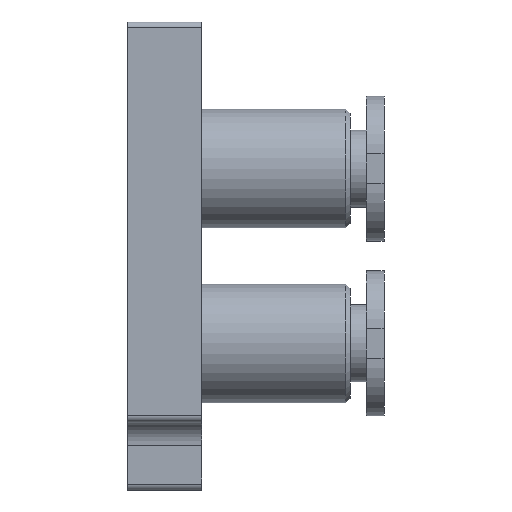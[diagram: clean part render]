
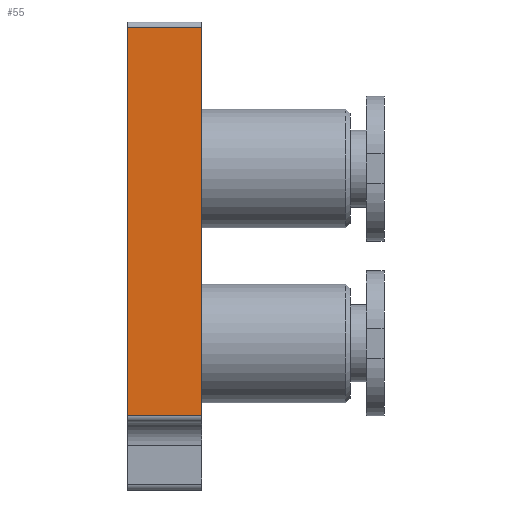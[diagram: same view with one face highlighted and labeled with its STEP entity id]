
A CAD part, left-side view. The second image highlights one B-rep face of the part: STEP entity #55.
In plain terms, the highlighted planar face has unit normal (-1, 0, 0).
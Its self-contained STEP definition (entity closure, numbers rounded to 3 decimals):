
#55=ADVANCED_FACE('',(#255),#254,.T.);
#254=PLANE('',#814);
#255=FACE_OUTER_BOUND('',#815,.T.);
#811=CARTESIAN_POINT('',(-8.8,-5.5,-26.22));
#812=DIRECTION('',(-1.,0.,0.));
#813=DIRECTION('',(0.,0.,1.));
#814=AXIS2_PLACEMENT_3D('',#811,#812,#813);
#815=EDGE_LOOP('',(#1222,#1223,#1224,#1225));
#1222=ORIENTED_EDGE('',*,*,#1491,.F.);
#1223=ORIENTED_EDGE('',*,*,#1492,.F.);
#1224=ORIENTED_EDGE('',*,*,#1493,.T.);
#1225=ORIENTED_EDGE('',*,*,#1489,.T.);
#1489=EDGE_CURVE('',#1889,#1882,#1890,.T.);
#1491=EDGE_CURVE('',#1902,#1882,#1903,.T.);
#1492=EDGE_CURVE('',#1909,#1902,#1910,.T.);
#1493=EDGE_CURVE('',#1909,#1889,#1916,.T.);
#1882=VERTEX_POINT('',#2702);
#1889=VERTEX_POINT('',#2707);
#1890=LINE('',#2708,#2709);
#1902=VERTEX_POINT('',#2715);
#1903=LINE('',#2716,#2717);
#1909=VERTEX_POINT('',#2719);
#1910=LINE('',#2720,#2721);
#1916=LINE('',#2723,#2724);
#2702=CARTESIAN_POINT('',(-8.8,-5.,-23.6));
#2707=CARTESIAN_POINT('',(-8.8,0.,-23.6));
#2708=CARTESIAN_POINT('',(-8.8,0.,-23.6));
#2709=VECTOR('',#2710,5.);
#2710=DIRECTION('',(0.,-1.,0.));
#2715=CARTESIAN_POINT('',(-8.8,-5.,2.6));
#2716=CARTESIAN_POINT('',(-8.8,-5.,2.6));
#2717=VECTOR('',#2718,26.2);
#2718=DIRECTION('',(0.,0.,-1.));
#2719=CARTESIAN_POINT('',(-8.8,0.,2.6));
#2720=CARTESIAN_POINT('',(-8.8,0.,2.6));
#2721=VECTOR('',#2722,5.);
#2722=DIRECTION('',(0.,-1.,0.));
#2723=CARTESIAN_POINT('',(-8.8,0.,2.6));
#2724=VECTOR('',#2725,26.2);
#2725=DIRECTION('',(0.,0.,-1.));
